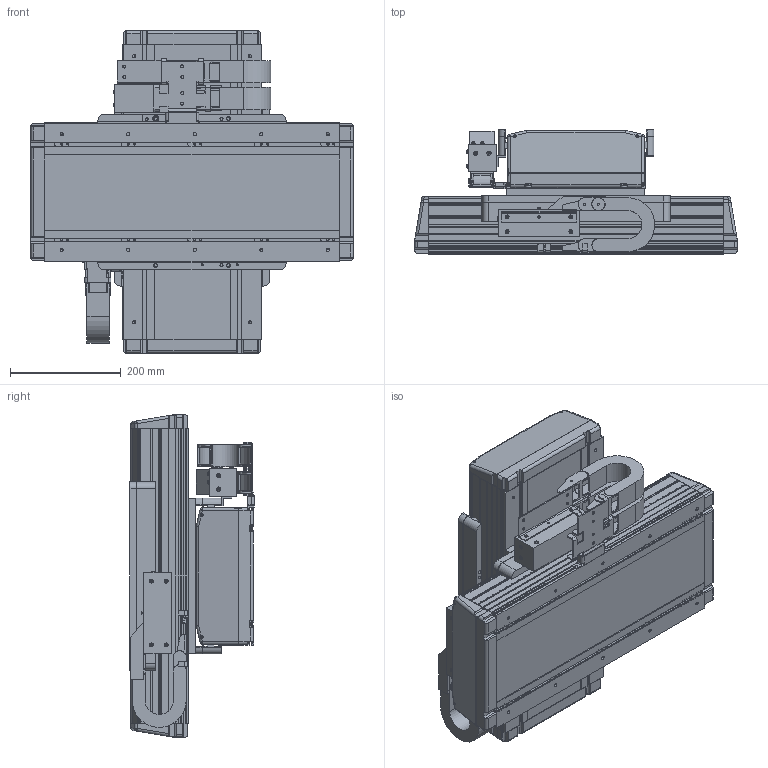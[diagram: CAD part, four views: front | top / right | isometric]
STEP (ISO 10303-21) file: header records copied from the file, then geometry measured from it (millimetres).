
FILE_DESCRIPTION((''),'2;1');
FILE_NAME('MPMA-BACB4B4A0-S1C_ASM','2008-08-25T',('ashokm'),('STRATTEC SECURITY CORP.'),'PRO/ENGINEER BY PARAMETRIC TECHNOLOGY CORPORATION, 2007150','PRO/ENGINEER BY PARAMETRIC TECHNOLOGY CORPORATION, 2007150','');
FILE_SCHEMA(('AUTOMOTIVE_DESIGN_CC2 { 1 2 10303 214 -1 1 5 2 }'));
Products named in the file (19): PART-1_250_581; PART-2_250; PART-3_250; PART-4_250_SEALED; PART-8_250_581; PART-8_200; MPAS-A9014K-ALMS2X_ASM; PART-15; MPAS-A9014K-ALMS2X_TOP_ASM; PART-6_200_581_DC; PART-5_200; PART_12; PART-13; DCC_CENTER_SUBASM_581_ASM; PART-6_250_581_C; PART10; PART-5_200-EXIT-RIGHT; CARRIER_ASSEMBLY1_581_ASM; MPMA-BACB4B4A0-S1C_ASM
Assembly tree (38 placements, depth 3):
  MPMA-BACB4B4A0-S1C_ASM
    MPAS-A9014K-ALMS2X_ASM
      PART-1_250_581
      PART-2_250
      PART-3_250
      PART-4_250_SEALED
      PART-8_250_581
      PART-8_200  x10
    PART-15
    MPAS-A9014K-ALMS2X_TOP_ASM
      PART-1_250_581
      PART-2_250
      PART-3_250
      PART-4_250_SEALED
      PART-8_250_581
      PART-8_200  x6
    DCC_CENTER_SUBASM_581_ASM
      PART-6_200_581_DC
      PART-5_200
      PART_12
      PART-13
    CARRIER_ASSEMBLY1_581_ASM
      PART-6_250_581_C
      PART10
      PART-5_200-EXIT-RIGHT
Bounding box: 580.8 x 223.87 x 580.8 mm (x, y, z)
Volume: 20998146.4 mm3; surface area: 3450022.1 mm2
Topology: 35 solids, 39 shells, 2752 faces, 7384 edges, 4800 vertices
Faces by surface type: plane 1580, cylinder 1104, sphere 24, bspline 24, torus 8, cone 8, extrusion 4
Entity records: 66529 total; most frequent: CARTESIAN_POINT 11908, DIRECTION 10212, ORIENTED_EDGE 9992, EDGE_CURVE 4996, AXIS2_PLACEMENT_3D 3418, VECTOR 3376, LINE 3374, VERTEX_POINT 3222
